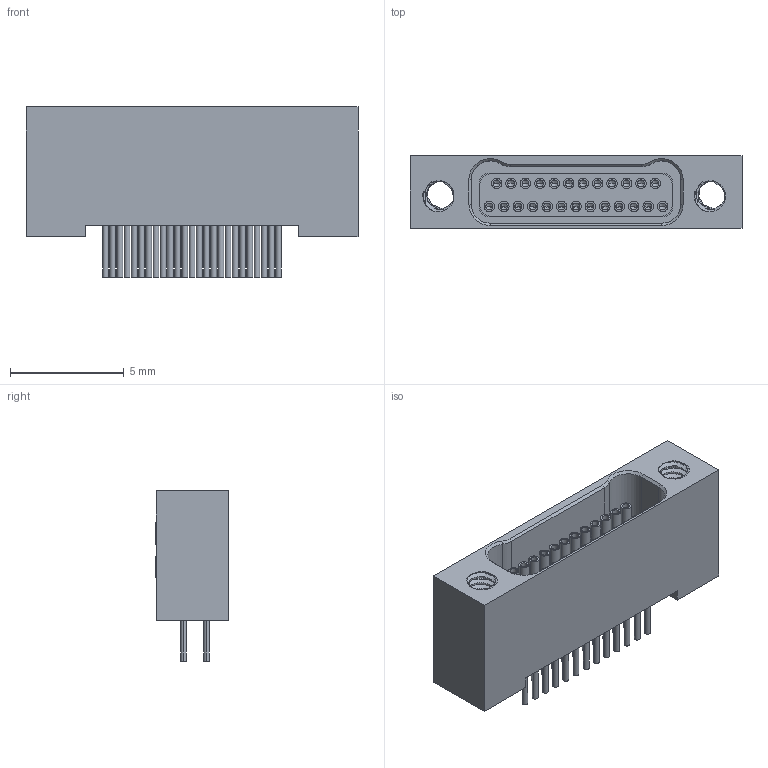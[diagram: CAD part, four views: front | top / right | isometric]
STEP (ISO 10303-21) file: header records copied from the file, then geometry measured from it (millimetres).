
FILE_DESCRIPTION (( 'STEP AP214' ), '1' );
FILE_NAME ('A29500-025 REV J.STEP', '2015-11-05T13:32:46', ( '' ), ( '' ), 'SwSTEP 2.0', 'SolidWorks 2015', '' );
FILE_SCHEMA (( 'AUTOMOTIVE_DESIGN' ));
Length unit declared in the file: inch
Products named in the file (1): A29500-025
Bounding box: 14.61 x 3.19 x 7.49 mm (x, y, z)
Volume: 172.9 mm3; surface area: 653.1 mm2
Topology: 1 solids, 1 shells, 535 faces, 1339 edges, 847 vertices
Faces by surface type: cylinder 238, plane 187, cone 56, bspline 54
Entity records: 24407 total; most frequent: CARTESIAN_POINT 11378, ORIENTED_EDGE 2578, DIRECTION 2333, EDGE_CURVE 1289, VERTEX_POINT 847, AXIS2_PLACEMENT_3D 820, LINE 693, VECTOR 693
